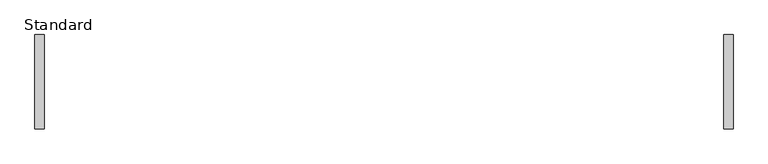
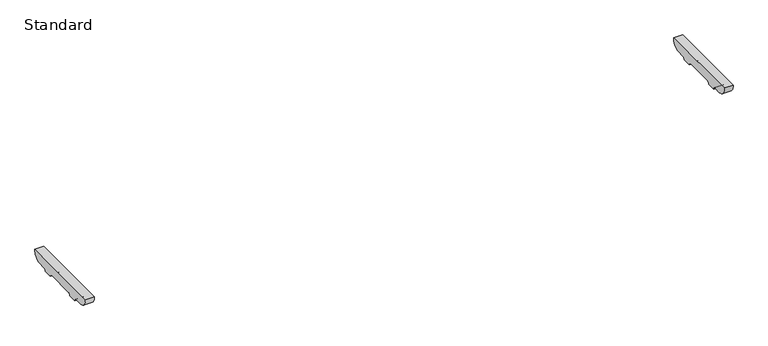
"""IFC4 building model written with IfcOpenShell, lengths in millimetres: furniture geometry, BDG_BossDesign_Tbls_AgentTables4Legs_Nested : Standard."""

from ifc_helpers import new_model, si_unit, point, frame, frame_2d, origin, place, context, project, spatial, polyline, circle_curve, trimmed, segment, composite_curve, outline, extrude, source, transform, mapped, element, save


def standard_a00d5145(model_context):
    return source(origin(), model_context, "Body", "SweptSolid", [
        extrude(outline(composite_curve([segment(polyline([(180.5450184, 672.0), (142.7000122, 672.0)]), True, "CONTINUOUS"), segment(trimmed(circle_curve(frame_2d((142.7000122, 660.0)), 12.0), [point((142.7000122, 672.0))], [point((130.7000122, 660.0))], True, "CARTESIAN"), True, "CONTINUOUS"), segment(polyline([(130.7000122, 660.0), (85.7000122, 660.0)]), True, "CONTINUOUS"), segment(trimmed(circle_curve(frame_2d((73.7000122, 660.0)), 12.0), [point((85.7000122, 660.0))], [point((73.7000122, 672.0))], True, "CARTESIAN"), True, "CONTINUOUS"), segment(polyline([(73.7000122, 672.0), (-73.7000122, 672.0)]), True, "CONTINUOUS"), segment(trimmed(circle_curve(frame_2d((-73.7000122, 660.0)), 12.0), [point((-73.7000122, 672.0))], [point((-85.7000122, 660.0))], True, "CARTESIAN"), True, "CONTINUOUS"), segment(polyline([(-85.7000122, 660.0), (-130.7000122, 660.0)]), True, "CONTINUOUS"), segment(trimmed(circle_curve(frame_2d((-142.7000122, 660.0)), 12.0), [point((-130.7000122, 660.0))], [point((-142.7000122, 672.0))], True, "CARTESIAN"), True, "CONTINUOUS"), segment(polyline([(-142.7000122, 672.0), (-180.5450184, 672.0)]), True, "CONTINUOUS"), segment(trimmed(circle_curve(frame_2d((-178.2220439, 716.5514119)), 44.6119324), [point((-180.5450184, 672.0))], [point((-222.5, 722.0))], False, "CARTESIAN"), True, "CONTINUOUS"), segment(polyline([(-222.5, 722.0), (222.5, 722.0)]), True, "CONTINUOUS"), segment(trimmed(circle_curve(frame_2d((178.2220439, 716.5514119)), 44.6119324), [point((222.5, 722.0))], [point((180.5450184, 672.0))], False, "CARTESIAN"), True, "CONTINUOUS")], self_intersect=False)), frame((1605.0, 0.0, 0.0), z_axis=(1.0, 0.0, 0.0), x_axis=(0.0, 1.0, 0.0)), (0.0, 0.0, 1.0), 45.0),
        extrude(outline(composite_curve([segment(polyline([(180.5450184, 672.0), (142.7000122, 672.0)]), True, "CONTINUOUS"), segment(trimmed(circle_curve(frame_2d((142.7000122, 660.0)), 12.0), [point((142.7000122, 672.0))], [point((130.7000122, 660.0))], True, "CARTESIAN"), True, "CONTINUOUS"), segment(polyline([(130.7000122, 660.0), (85.7000122, 660.0)]), True, "CONTINUOUS"), segment(trimmed(circle_curve(frame_2d((73.7000122, 660.0)), 12.0), [point((85.7000122, 660.0))], [point((73.7000122, 672.0))], True, "CARTESIAN"), True, "CONTINUOUS"), segment(polyline([(73.7000122, 672.0), (-73.7000122, 672.0)]), True, "CONTINUOUS"), segment(trimmed(circle_curve(frame_2d((-73.7000122, 660.0)), 12.0), [point((-73.7000122, 672.0))], [point((-85.7000122, 660.0))], True, "CARTESIAN"), True, "CONTINUOUS"), segment(polyline([(-85.7000122, 660.0), (-130.7000122, 660.0)]), True, "CONTINUOUS"), segment(trimmed(circle_curve(frame_2d((-142.7000122, 660.0)), 12.0), [point((-130.7000122, 660.0))], [point((-142.7000122, 672.0))], True, "CARTESIAN"), True, "CONTINUOUS"), segment(polyline([(-142.7000122, 672.0), (-180.5450184, 672.0)]), True, "CONTINUOUS"), segment(trimmed(circle_curve(frame_2d((-178.2220439, 716.5514119)), 44.6119324), [point((-180.5450184, 672.0))], [point((-222.5, 722.0))], False, "CARTESIAN"), True, "CONTINUOUS"), segment(polyline([(-222.5, 722.0), (222.5, 722.0)]), True, "CONTINUOUS"), segment(trimmed(circle_curve(frame_2d((178.2220439, 716.5514119)), 44.6119324), [point((222.5, 722.0))], [point((180.5450184, 672.0))], False, "CARTESIAN"), True, "CONTINUOUS")], self_intersect=False)), frame((-1650.0, 0.0, 0.0), z_axis=(1.0, 0.0, 0.0), x_axis=(0.0, 1.0, 0.0)), (0.0, 0.0, 1.0), 45.0),
    ])


if __name__ == "__main__":
    model = new_model("IFC4")
    model_context = context("Model", 3, world=origin())
    ifc_project = project(units=[si_unit("LENGTHUNIT", "METRE", prefix="MILLI")], contexts=[model_context])
    site = spatial("IfcSite", under=ifc_project)
    building = spatial("IfcBuilding", under=site)
    placement = place(None, origin())
    standard_shape = standard_a00d5145(model_context)
    element("IfcFurniture", 1, ObjectType="BDG_BossDesign_Tbls_AgentTables4Legs_Nested : Standard", at=placement, inside=building, context=model_context, shape_type="MappedRepresentation", body=[
        mapped(standard_shape, transform((0.0, 0.0, 0.0), x_axis=(1.0, 0.0, 0.0), y_axis=(0.0, 1.0, 0.0), z_axis=(0.0, 0.0, 1.0))),
    ])
    save(model, "model.ifc")
